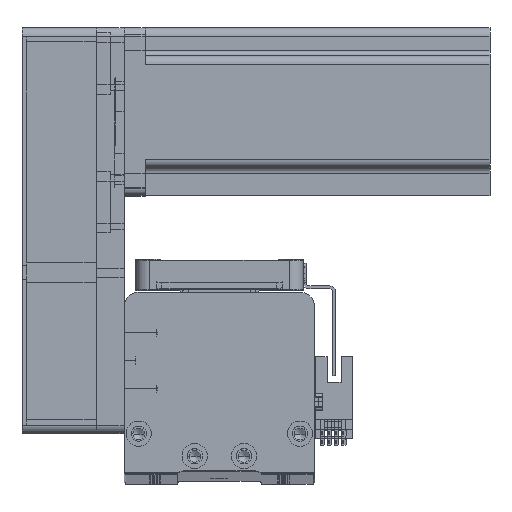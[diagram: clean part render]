
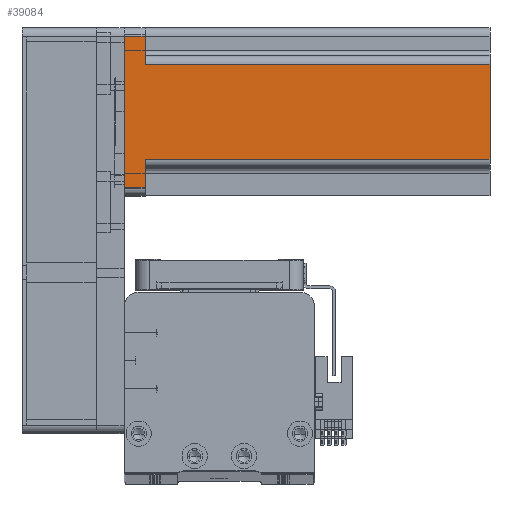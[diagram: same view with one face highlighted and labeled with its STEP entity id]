
A CAD part, top view. The second image highlights one B-rep face of the part: STEP entity #39084.
In plain terms, the highlighted planar face has unit normal (0, 0, 1) as drawn and (0, 1, 0) by its records, which use the part's own axes.
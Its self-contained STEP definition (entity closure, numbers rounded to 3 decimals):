
#159 = VECTOR ( 'NONE', #14761, 1000. ) ;
#615 = DIRECTION ( 'NONE',  ( 0., 0., -1. ) ) ;
#1441 = LINE ( 'NONE', #39270, #159 ) ;
#2859 = CARTESIAN_POINT ( 'NONE',  ( 30., 30., 130.7 ) ) ;
#2895 = VERTEX_POINT ( 'NONE', #49053 ) ;
#3968 = CARTESIAN_POINT ( 'NONE',  ( -20., 30., 7.5 ) ) ;
#5017 = CARTESIAN_POINT ( 'NONE',  ( 30., 30., 0. ) ) ;
#5880 = VERTEX_POINT ( 'NONE', #7073 ) ;
#6315 = VERTEX_POINT ( 'NONE', #24153 ) ;
#6953 = DIRECTION ( 'NONE',  ( 1., 0., 0. ) ) ;
#7073 = CARTESIAN_POINT ( 'NONE',  ( 17., 30., 7.5 ) ) ;
#7665 = VERTEX_POINT ( 'NONE', #13403 ) ;
#8068 = EDGE_CURVE ( 'NONE', #11567, #6315, #34241, .T. ) ;
#9783 = CARTESIAN_POINT ( 'NONE',  ( 30., 30., 130.7 ) ) ;
#11567 = VERTEX_POINT ( 'NONE', #28754 ) ;
#12308 = EDGE_CURVE ( 'NONE', #35592, #5880, #41126, .T. ) ;
#13403 = CARTESIAN_POINT ( 'NONE',  ( 27., 30., 0. ) ) ;
#13647 = VERTEX_POINT ( 'NONE', #45952 ) ;
#14240 = LINE ( 'NONE', #17029, #45657 ) ;
#14678 = DIRECTION ( 'NONE',  ( -1., 0., 0. ) ) ;
#14761 = DIRECTION ( 'NONE',  ( 0., 0., 1. ) ) ;
#15854 = DIRECTION ( 'NONE',  ( 0., 0., 1. ) ) ;
#16901 = CARTESIAN_POINT ( 'NONE',  ( 17., 30., 130.7 ) ) ;
#17029 = CARTESIAN_POINT ( 'NONE',  ( 27., 30., 130.7 ) ) ;
#18908 = ORIENTED_EDGE ( 'NONE', *, *, #12308, .F. ) ;
#21019 = DIRECTION ( 'NONE',  ( 0., 0., -1. ) ) ;
#21519 = EDGE_CURVE ( 'NONE', #2895, #13647, #27588, .T. ) ;
#21947 = EDGE_LOOP ( 'NONE', ( #52640, #28077, #41698, #48153, #18908, #32241, #27689, #30418 ) ) ;
#22473 = LINE ( 'NONE', #5017, #42993 ) ;
#23345 = VECTOR ( 'NONE', #15854, 1000. ) ;
#24153 = CARTESIAN_POINT ( 'NONE',  ( -27., 30., 7.5 ) ) ;
#26096 = DIRECTION ( 'NONE',  ( -1., 0., 0. ) ) ;
#26497 = EDGE_CURVE ( 'NONE', #35592, #7665, #14240, .T. ) ;
#27588 = LINE ( 'NONE', #9783, #37158 ) ;
#27689 = ORIENTED_EDGE ( 'NONE', *, *, #53042, .T. ) ;
#28077 = ORIENTED_EDGE ( 'NONE', *, *, #30165, .T. ) ;
#28150 = FACE_OUTER_BOUND ( 'NONE', #21947, .T. ) ;
#28754 = CARTESIAN_POINT ( 'NONE',  ( -27., 30., 0. ) ) ;
#30165 = EDGE_CURVE ( 'NONE', #39895, #13647, #1441, .T. ) ;
#30245 = VECTOR ( 'NONE', #14678, 1000. ) ;
#30418 = ORIENTED_EDGE ( 'NONE', *, *, #8068, .T. ) ;
#30551 = LINE ( 'NONE', #3968, #37575 ) ;
#31486 = DIRECTION ( 'NONE',  ( 0., -1., 0. ) ) ;
#32241 = ORIENTED_EDGE ( 'NONE', *, *, #26497, .T. ) ;
#33464 = EDGE_CURVE ( 'NONE', #2895, #5880, #41869, .T. ) ;
#34241 = LINE ( 'NONE', #44162, #23345 ) ;
#35416 = PLANE ( 'NONE',  #36615 ) ;
#35592 = VERTEX_POINT ( 'NONE', #41363 ) ;
#36615 = AXIS2_PLACEMENT_3D ( 'NONE', #2859, #31486, #6953 ) ;
#37158 = VECTOR ( 'NONE', #26096, 1000. ) ;
#37575 = VECTOR ( 'NONE', #40661, 1000. ) ;
#39084 = ADVANCED_FACE ( 'NONE', ( #28150 ), #35416, .F. ) ;
#39270 = CARTESIAN_POINT ( 'NONE',  ( -17., 30., 130.7 ) ) ;
#39895 = VERTEX_POINT ( 'NONE', #50052 ) ;
#40339 = EDGE_CURVE ( 'NONE', #6315, #39895, #30551, .T. ) ;
#40564 = VECTOR ( 'NONE', #21019, 1000. ) ;
#40661 = DIRECTION ( 'NONE',  ( 1., 0., 0. ) ) ;
#41126 = LINE ( 'NONE', #51402, #30245 ) ;
#41363 = CARTESIAN_POINT ( 'NONE',  ( 27., 30., 7.5 ) ) ;
#41698 = ORIENTED_EDGE ( 'NONE', *, *, #21519, .F. ) ;
#41869 = LINE ( 'NONE', #16901, #40564 ) ;
#41908 = DIRECTION ( 'NONE',  ( -1., 0., 0. ) ) ;
#42993 = VECTOR ( 'NONE', #41908, 1000. ) ;
#44162 = CARTESIAN_POINT ( 'NONE',  ( -27., 30., 130.7 ) ) ;
#45657 = VECTOR ( 'NONE', #615, 1000. ) ;
#45952 = CARTESIAN_POINT ( 'NONE',  ( -17., 30., 130.7 ) ) ;
#48153 = ORIENTED_EDGE ( 'NONE', *, *, #33464, .T. ) ;
#49053 = CARTESIAN_POINT ( 'NONE',  ( 17., 30., 130.7 ) ) ;
#50052 = CARTESIAN_POINT ( 'NONE',  ( -17., 30., 7.5 ) ) ;
#51402 = CARTESIAN_POINT ( 'NONE',  ( 20., 30., 7.5 ) ) ;
#52640 = ORIENTED_EDGE ( 'NONE', *, *, #40339, .T. ) ;
#53042 = EDGE_CURVE ( 'NONE', #7665, #11567, #22473, .T. ) ;
